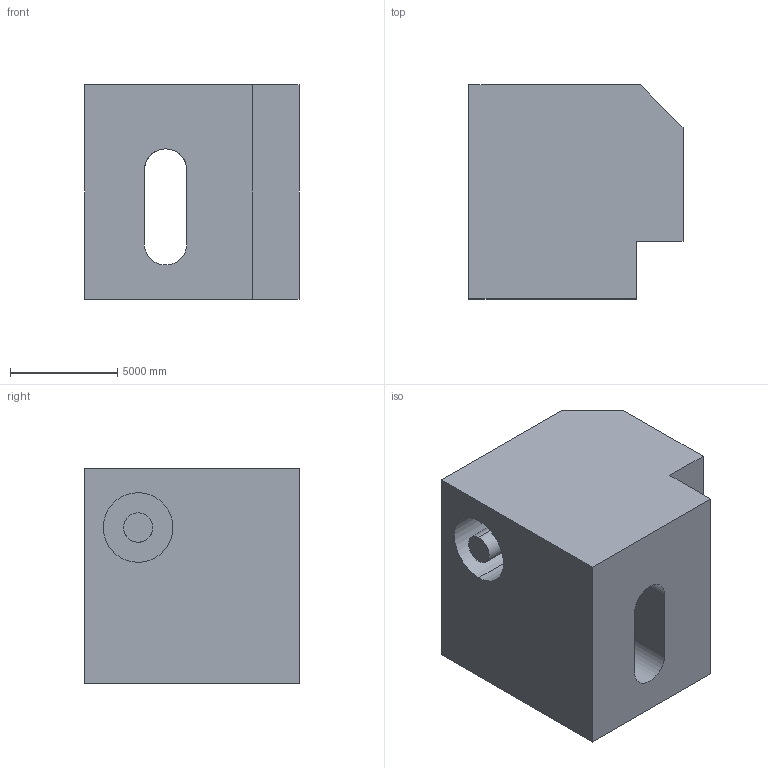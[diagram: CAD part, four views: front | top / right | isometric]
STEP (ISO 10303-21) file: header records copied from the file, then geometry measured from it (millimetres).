
FILE_DESCRIPTION (( 'STEP AP203' ), '1' );
FILE_NAME ('273.STEP', '2022-09-07T12:33:22', ( 'user' ), ( '' ), 'SwSTEP 2.0', 'SolidWorks 2021', '' );
FILE_SCHEMA (( 'CONFIG_CONTROL_DESIGN' ));
Length unit declared in the file: centimetre
Products named in the file (1): 273
Bounding box: 10000 x 10000 x 10000 mm (x, y, z)
Volume: 785961549201 mm3; surface area: 750258862.3 mm2
Topology: 1 solids, 1 shells, 24 faces, 66 edges, 44 vertices
Faces by surface type: plane 13, cylinder 11
Entity records: 1431 total; most frequent: CARTESIAN_POINT 729, ORIENTED_EDGE 132, DIRECTION 126, EDGE_CURVE 66, VERTEX_POINT 44, AXIS2_PLACEMENT_3D 43, VECTOR 40, LINE 40
